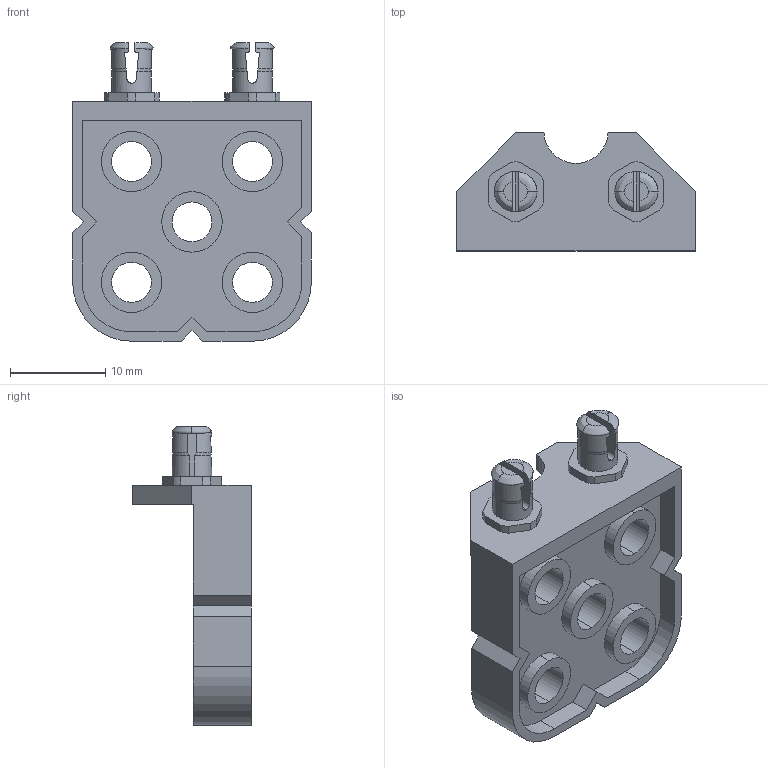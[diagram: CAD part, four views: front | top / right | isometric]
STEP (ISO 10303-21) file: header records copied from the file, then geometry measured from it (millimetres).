
FILE_DESCRIPTION (( 'STEP AP214' ), '1' );
FILE_NAME ('228-2500-2295.STEP', '2021-02-18T20:41:27', ( '' ), ( '' ), 'SwSTEP 2.0', 'SolidWorks 2019', '' );
FILE_SCHEMA (( 'AUTOMOTIVE_DESIGN' ));
Length unit declared in the file: millimetre
Products named in the file (1): 228-2500-2295
Bounding box: 25.1 x 12.43 x 31.39 mm (x, y, z)
Volume: 2166.4 mm3; surface area: 3062.8 mm2
Topology: 1 solids, 1 shells, 192 faces, 517 edges, 342 vertices
Faces by surface type: plane 95, cylinder 73, bspline 16, cone 8
Entity records: 15985 total; most frequent: CARTESIAN_POINT 11256, ORIENTED_EDGE 1034, DIRECTION 901, EDGE_CURVE 517, VERTEX_POINT 342, AXIS2_PLACEMENT_3D 311, VECTOR 279, LINE 279
